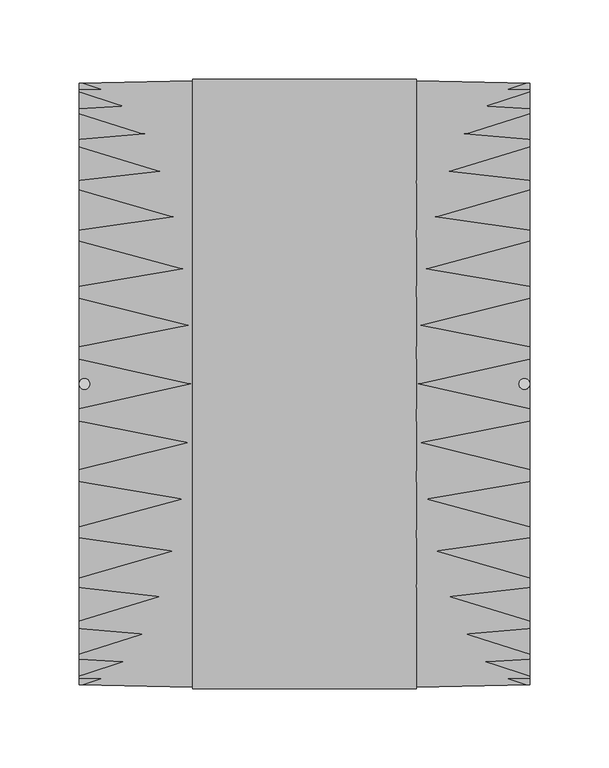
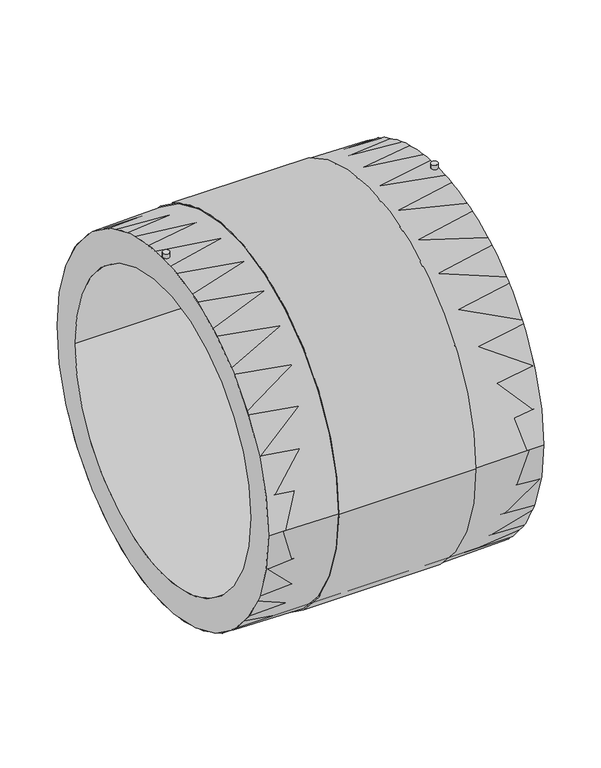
"""IFC4 building model written with IfcOpenShell, lengths in millimetres: pipe fitting geometry, EGB_VASEN_ PPR_Manguito electrosoldable WXRD100 : Manguito electrosoldable WXRD100."""

from ifc_helpers import new_model, si_unit, point, frame, frame_2d, origin, origin_2d, place, context, project, spatial, polyline, circle_curve, trimmed, segment, composite_curve, outline, extrude, source, transform, mapped, element, save
from ifc_brep_helpers import plane_surface, cylinder_surface, revolved_surface, advanced_brep


def pipe_fitting_3571c602(model_context):
    return source(origin(), model_context, "Body", "SolidModel", [
        extrude(outline(composite_curve([segment(trimmed(circle_curve(origin_2d(), 190.0), [point((-190.0, 0.0))], [point((190.0, 0.0))], False, "CARTESIAN"), True, "CONTINUOUS"), segment(trimmed(circle_curve(origin_2d(), 190.0), [point((190.0, 0.0))], [point((-190.0, 0.0))], False, "CARTESIAN"), True, "CONTINUOUS")], self_intersect=False), holes=[composite_curve([segment(trimmed(circle_curve(origin_2d(), 157.5), [point((-157.5, 0.0))], [point((157.5, 0.0))], True, "CARTESIAN"), True, "CONTINUOUS"), segment(trimmed(circle_curve(origin_2d(), 157.5), [point((157.5, 0.0))], [point((-157.5, 0.0))], True, "CARTESIAN"), True, "CONTINUOUS")], self_intersect=False)]), frame((-142.5, 0.0, 0.0), z_axis=(1.0, 0.0, 0.0), x_axis=(0.0, 1.0, 0.0)), (0.0, 0.0, 1.0), 285.0),
        extrude(outline(composite_curve([segment(trimmed(circle_curve(frame_2d((-139.0878802, 0.0)), 3.4121198), [point((-142.5, 0.0))], [point((-135.6757605, 0.0))], False, "CARTESIAN"), True, "CONTINUOUS"), segment(trimmed(circle_curve(frame_2d((-139.0878802, 0.0)), 3.4121198), [point((-135.6757605, 0.0))], [point((-142.5, 0.0))], False, "CARTESIAN"), True, "CONTINUOUS")], self_intersect=False)), frame((0.0, 0.0, 159.5), z_axis=(0.0, 0.0, 1.0), x_axis=(1.0, 0.0, 0.0)), (0.0, 0.0, 1.0), 35.5),
        extrude(outline(composite_curve([segment(trimmed(circle_curve(frame_2d((139.0878802, 0.0)), 3.4121198), [point((135.6757605, 0.0))], [point((142.5, 0.0))], False, "CARTESIAN"), True, "CONTINUOUS"), segment(trimmed(circle_curve(frame_2d((139.0878802, 0.0)), 3.4121198), [point((142.5, 0.0))], [point((135.6757605, 0.0))], False, "CARTESIAN"), True, "CONTINUOUS")], self_intersect=False)), frame((0.0, 0.0, 159.5), z_axis=(0.0, 0.0, 1.0), x_axis=(1.0, 0.0, 0.0)), (0.0, 0.0, 1.0), 35.5),
        advanced_brep(
        [(70.85, -191.582849, 0.0), (70.85, 191.582849, 0.0), (142.5, 190.0, 0.0), (142.5, -190.0, 0.0), (70.85, -192.582849, 0.0), (70.85, 192.582849, 0.0), (-70.85, -192.582849, 0.0), (-70.85, 192.582849, 0.0), (-70.85, -191.582849, 0.0), (-70.85, 191.582849, 0.0), (-142.5, -190.0, 0.0), (-142.5, 190.0, 0.0)],
        [
            (0, 1, circle_curve(frame((70.85, 0.0, 0.0), z_axis=(1.0, 0.0, 0.0), x_axis=(0.0, 1.0, 0.0)), 191.582849)),
            (1, 2),
            (2, 3, circle_curve(frame((142.5, 0.0, 0.0), z_axis=(-1.0, 0.0, 0.0), x_axis=(0.0, 1.0, 0.0)), 190.0)),
            (3, 0),
            (1, 0, circle_curve(frame((70.85, 0.0, 0.0), z_axis=(1.0, 0.0, 0.0), x_axis=(0.0, 1.0, 0.0)), 191.582849)),
            (3, 2, circle_curve(frame((142.5, 0.0, 0.0), z_axis=(-1.0, 0.0, 0.0), x_axis=(0.0, 1.0, 0.0)), 190.0)),
            (4, 5, circle_curve(frame((70.85, 0.0, 0.0), z_axis=(1.0, 0.0, 0.0), x_axis=(0.0, 1.0, 0.0)), 192.582849)),
            (5, 1),
            (0, 4),
            (5, 4, circle_curve(frame((70.85, 0.0, 0.0), z_axis=(1.0, 0.0, 0.0), x_axis=(0.0, 1.0, 0.0)), 192.582849)),
            (6, 7, circle_curve(frame((-70.85, 0.0, 0.0), z_axis=(1.0, 0.0, 0.0), x_axis=(0.0, 1.0, 0.0)), 192.582849)),
            (7, 5),
            (4, 6),
            (7, 6, circle_curve(frame((-70.85, 0.0, 0.0), z_axis=(1.0, 0.0, 0.0), x_axis=(0.0, 1.0, 0.0)), 192.582849)),
            (8, 9, circle_curve(frame((-70.85, 0.0, 0.0), z_axis=(1.0, 0.0, 0.0), x_axis=(0.0, 1.0, 0.0)), 191.582849)),
            (9, 7),
            (6, 8),
            (9, 8, circle_curve(frame((-70.85, 0.0, 0.0), z_axis=(1.0, 0.0, 0.0), x_axis=(0.0, 1.0, 0.0)), 191.582849)),
            (10, 11, circle_curve(frame((-142.5, 0.0, 0.0), z_axis=(1.0, 0.0, 0.0), x_axis=(0.0, 1.0, 0.0)), 190.0)),
            (11, 9),
            (8, 10),
            (11, 10, circle_curve(frame((-142.5, 0.0, 0.0), z_axis=(1.0, 0.0, 0.0), x_axis=(0.0, 1.0, 0.0)), 190.0)),
            (2, 11),
            (10, 3),
        ],
        [
            revolved_surface(polyline([(142.5, 190.0, 0.0), (70.85, 191.582849, 0.0)]), (-136.2721997, 0.0, 0.0), (-1.0, 0.0, 0.0)),
            plane_surface(frame((70.85, 0.0, 0.0), z_axis=(1.0, 0.0, 0.0), x_axis=(0.0, 1.0, 0.0))),
            cylinder_surface(frame((-136.2721997, 0.0, 0.0), z_axis=(-1.0, 0.0, 0.0), x_axis=(0.0, 1.0, 0.0)), 192.582849),
            plane_surface(frame((-70.85, 0.0, 0.0), z_axis=(-1.0, 0.0, 0.0), x_axis=(0.0, 1.0, 0.0))),
            revolved_surface(polyline([(-70.85, 191.582849, 0.0), (-142.5, 190.0, 0.0)]), (-136.2721997, 0.0, 0.0), (-1.0, 0.0, 0.0)),
            revolved_surface(polyline([(-142.5, 190.0, 0.0), (142.5, 190.0, 0.0)]), (-136.2721997, 0.0, 0.0), (-1.0, 0.0, 0.0)),
        ],
        [
            (0, [[1, 2, 3, 4]]),
            (0, [[5, -4, 6, -2]]),
            (1, [[7, 8, -1, 9]]),
            (1, [[10, -9, -5, -8]]),
            (2, [[11, 12, -7, 13]]),
            (2, [[14, -13, -10, -12]]),
            (3, [[15, 16, -11, 17]]),
            (3, [[18, -17, -14, -16]]),
            (4, [[19, 20, -15, 21]]),
            (4, [[22, -21, -18, -20]]),
            (5, [[-3, 23, -19, 24]]),
            (5, [[-6, -24, -22, -23]]),
        ],
    ),
    ])


if __name__ == "__main__":
    model = new_model("IFC4")
    model_context = context("Model", 3, world=origin())
    ifc_project = project(units=[si_unit("LENGTHUNIT", "METRE", prefix="MILLI")], contexts=[model_context])
    site = spatial("IfcSite", under=ifc_project)
    building = spatial("IfcBuilding", under=site)
    placement = place(None, origin())
    pipe_fitting_shape = pipe_fitting_3571c602(model_context)
    element("IfcPipeFitting", 1, ObjectType="EGB_VASEN_ PPR_Manguito electrosoldable WXRD100 : Manguito electrosoldable WXRD100", at=placement, inside=building, context=model_context, shape_type="MappedRepresentation", body=[
        mapped(pipe_fitting_shape, transform((0.0, 0.0, 0.0), x_axis=(1.0, 0.0, 0.0), y_axis=(0.0, 1.0, 0.0), z_axis=(0.0, 0.0, 1.0))),
    ])
    save(model, "model.ifc")
